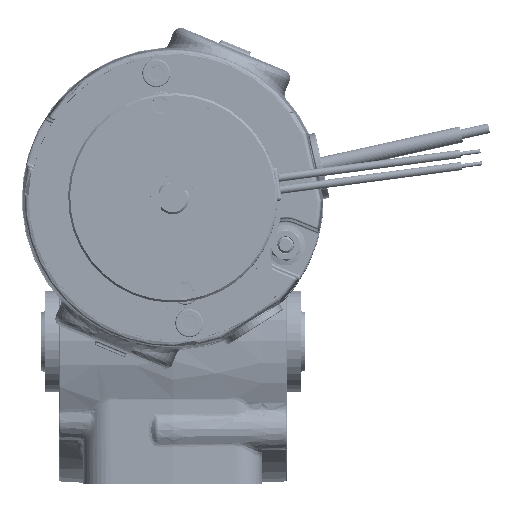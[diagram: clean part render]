
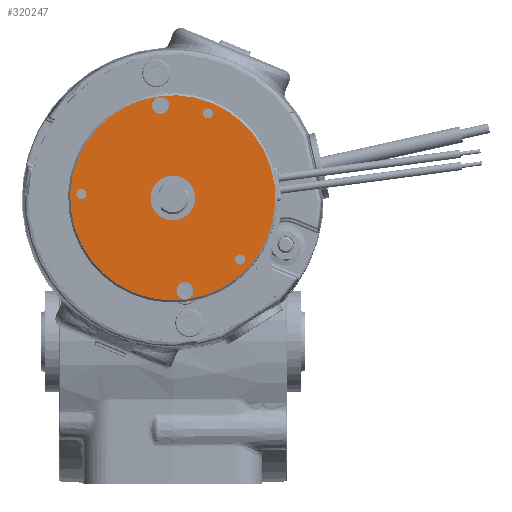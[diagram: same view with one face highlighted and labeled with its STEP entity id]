
A CAD part, top view. The second image highlights one B-rep face of the part: STEP entity #320247.
In plain terms, the highlighted planar face has unit normal (0, 0, 1).
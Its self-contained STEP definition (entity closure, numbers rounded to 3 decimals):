
#3334 = CARTESIAN_POINT ( 'NONE',  ( 5.264, 14.716, 231.098 ) ) ;
#10581 = CARTESIAN_POINT ( 'NONE',  ( 13.404, 34.367, 231.098 ) ) ;
#14494 = ORIENTED_EDGE ( 'NONE', *, *, #96636, .T. ) ;
#14710 = DIRECTION ( 'NONE',  ( -0.383, -0.924, 0. ) ) ;
#18365 = VERTEX_POINT ( 'NONE', #400394 ) ;
#24268 = CIRCLE ( 'NONE', #418028, 1.23 ) ;
#27853 = ORIENTED_EDGE ( 'NONE', *, *, #574388, .T. ) ;
#37135 = VERTEX_POINT ( 'NONE', #475585 ) ;
#40386 = AXIS2_PLACEMENT_3D ( 'NONE', #507499, #459671, #14710 ) ;
#40445 = CARTESIAN_POINT ( 'NONE',  ( -17.214, 15.697, 231.098 ) ) ;
#41576 = CARTESIAN_POINT ( 'NONE',  ( 13.875, 35.503, 231.098 ) ) ;
#41715 = DIRECTION ( 'NONE',  ( -0.383, -0.924, 0. ) ) ;
#50773 = CARTESIAN_POINT ( 'NONE',  ( 13.875, 35.503, 231.098 ) ) ;
#54366 = VERTEX_POINT ( 'NONE', #264829 ) ;
#55282 = DIRECTION ( 'NONE',  ( -0.383, -0.924, 0. ) ) ;
#56962 = EDGE_LOOP ( 'NONE', ( #27853, #65519 ) ) ;
#58887 = ORIENTED_EDGE ( 'NONE', *, *, #296121, .T. ) ;
#62951 = CIRCLE ( 'NONE', #494750, 5.5 ) ;
#65143 = DIRECTION ( 'NONE',  ( 0., 0., -1. ) ) ;
#65519 = ORIENTED_EDGE ( 'NONE', *, *, #582731, .T. ) ;
#67219 = CIRCLE ( 'NONE', #412633, 1.23 ) ;
#70260 = EDGE_CURVE ( 'NONE', #565875, #197919, #306592, .T. ) ;
#72282 = FACE_BOUND ( 'NONE', #140644, .T. ) ;
#77723 = ORIENTED_EDGE ( 'NONE', *, *, #152362, .T. ) ;
#78218 = CIRCLE ( 'NONE', #490860, 2.1 ) ;
#87529 = CARTESIAN_POINT ( 'NONE',  ( 3.066, 39.459, 231.098 ) ) ;
#89603 = DIRECTION ( 'NONE',  ( -0.383, -0.924, 0. ) ) ;
#90033 = CARTESIAN_POINT ( 'NONE',  ( 7.463, -10.028, 231.098 ) ) ;
#96636 = EDGE_CURVE ( 'NONE', #18365, #105431, #422333, .T. ) ;
#98732 = DIRECTION ( 'NONE',  ( -0.383, -0.924, 0. ) ) ;
#105225 = CIRCLE ( 'NONE', #326426, 2.1 ) ;
#105431 = VERTEX_POINT ( 'NONE', #170308 ) ;
#107427 = DIRECTION ( 'NONE',  ( -0.383, -0.924, 0. ) ) ;
#108125 = EDGE_CURVE ( 'NONE', #197919, #565875, #105225, .T. ) ;
#110119 = CARTESIAN_POINT ( 'NONE',  ( 2.262, 37.519, 231.098 ) ) ;
#126683 = DIRECTION ( 'NONE',  ( 0., 0., 1. ) ) ;
#131329 = AXIS2_PLACEMENT_3D ( 'NONE', #40445, #311000, #590240 ) ;
#131626 = AXIS2_PLACEMENT_3D ( 'NONE', #554038, #238514, #55282 ) ;
#139113 = AXIS2_PLACEMENT_3D ( 'NONE', #306387, #216102, #89603 ) ;
#140291 = ORIENTED_EDGE ( 'NONE', *, *, #142812, .T. ) ;
#140644 = EDGE_LOOP ( 'NONE', ( #563806, #162507 ) ) ;
#142812 = EDGE_CURVE ( 'NONE', #429199, #54366, #366951, .T. ) ;
#148539 = CIRCLE ( 'NONE', #139113, 1.229 ) ;
#152362 = EDGE_CURVE ( 'NONE', #105431, #18365, #510817, .T. ) ;
#162507 = ORIENTED_EDGE ( 'NONE', *, *, #243177, .T. ) ;
#168334 = EDGE_LOOP ( 'NONE', ( #233270, #58887 ) ) ;
#170308 = CARTESIAN_POINT ( 'NONE',  ( 14.927, 38.044, 231.098 ) ) ;
#179817 = CARTESIAN_POINT ( 'NONE',  ( 21.853, -0.485, 231.098 ) ) ;
#180270 = CARTESIAN_POINT ( 'NONE',  ( -16.744, 16.833, 231.098 ) ) ;
#183179 = EDGE_CURVE ( 'NONE', #317907, #499739, #294705, .T. ) ;
#184016 = AXIS2_PLACEMENT_3D ( 'NONE', #483935, #574038, #525948 ) ;
#191765 = DIRECTION ( 'NONE',  ( 0., 0., -1. ) ) ;
#197919 = VERTEX_POINT ( 'NONE', #541333 ) ;
#201396 = ORIENTED_EDGE ( 'NONE', *, *, #108125, .T. ) ;
#201747 = AXIS2_PLACEMENT_3D ( 'NONE', #3334, #126683, #358228 ) ;
#202557 = CARTESIAN_POINT ( 'NONE',  ( 9.07, -6.148, 231.098 ) ) ;
#207486 = FACE_BOUND ( 'NONE', #168334, .T. ) ;
#216102 = DIRECTION ( 'NONE',  ( 0., 0., -1. ) ) ;
#218889 = DIRECTION ( 'NONE',  ( 0., 0., -1. ) ) ;
#222480 = VERTEX_POINT ( 'NONE', #298981 ) ;
#233270 = ORIENTED_EDGE ( 'NONE', *, *, #526670, .T. ) ;
#234007 = DIRECTION ( 'NONE',  ( -0.383, -0.924, 0. ) ) ;
#238514 = DIRECTION ( 'NONE',  ( 0., 0., -1. ) ) ;
#243177 = EDGE_CURVE ( 'NONE', #266021, #298226, #572690, .T. ) ;
#248400 = CARTESIAN_POINT ( 'NONE',  ( 21.853, -0.485, 231.098 ) ) ;
#261305 = AXIS2_PLACEMENT_3D ( 'NONE', #50773, #555469, #234007 ) ;
#264829 = CARTESIAN_POINT ( 'NONE',  ( 14.345, 36.639, 231.098 ) ) ;
#266021 = VERTEX_POINT ( 'NONE', #180270 ) ;
#269819 = CARTESIAN_POINT ( 'NONE',  ( -17.685, 14.561, 231.098 ) ) ;
#275399 = CIRCLE ( 'NONE', #400417, 5.5 ) ;
#279939 = ORIENTED_EDGE ( 'NONE', *, *, #183179, .T. ) ;
#283028 = EDGE_LOOP ( 'NONE', ( #14494, #77723 ) ) ;
#294705 = CIRCLE ( 'NONE', #131626, 2.1 ) ;
#296121 = EDGE_CURVE ( 'NONE', #578365, #222480, #62951, .T. ) ;
#296503 = DIRECTION ( 'NONE',  ( 0., 0., -1. ) ) ;
#297699 = FACE_BOUND ( 'NONE', #56962, .T. ) ;
#298226 = VERTEX_POINT ( 'NONE', #269819 ) ;
#298981 = CARTESIAN_POINT ( 'NONE',  ( 3.16, 9.634, 231.098 ) ) ;
#306387 = CARTESIAN_POINT ( 'NONE',  ( -17.214, 15.697, 231.098 ) ) ;
#306592 = CIRCLE ( 'NONE', #460113, 2.1 ) ;
#306684 = PLANE ( 'NONE',  #184016 ) ;
#306984 = EDGE_CURVE ( 'NONE', #499739, #317907, #78218, .T. ) ;
#311000 = DIRECTION ( 'NONE',  ( 0., 0., -1. ) ) ;
#317907 = VERTEX_POINT ( 'NONE', #202557 ) ;
#320247 = ADVANCED_FACE ( 'NONE', ( #339981, #522959, #297699, #72282, #579999, #207486, #438953 ), #306684, .F. ) ;
#323888 = CIRCLE ( 'NONE', #390785, 1.23 ) ;
#326426 = AXIS2_PLACEMENT_3D ( 'NONE', #110119, #296503, #386750 ) ;
#339981 = FACE_BOUND ( 'NONE', #454456, .T. ) ;
#342149 = DIRECTION ( 'NONE',  ( -0.383, -0.924, 0. ) ) ;
#358228 = DIRECTION ( 'NONE',  ( -0.383, -0.924, 0. ) ) ;
#366169 = DIRECTION ( 'NONE',  ( -0.383, -0.924, 0. ) ) ;
#366951 = CIRCLE ( 'NONE', #261305, 1.23 ) ;
#373527 = EDGE_CURVE ( 'NONE', #298226, #266021, #148539, .T. ) ;
#378239 = CARTESIAN_POINT ( 'NONE',  ( 5.264, 14.716, 231.098 ) ) ;
#386750 = DIRECTION ( 'NONE',  ( -0.383, -0.924, 0. ) ) ;
#390785 = AXIS2_PLACEMENT_3D ( 'NONE', #248400, #65143, #575733 ) ;
#399515 = DIRECTION ( 'NONE',  ( 0., 0., -1. ) ) ;
#400394 = CARTESIAN_POINT ( 'NONE',  ( -4.398, -8.612, 231.098 ) ) ;
#400417 = AXIS2_PLACEMENT_3D ( 'NONE', #378239, #191765, #107427 ) ;
#412633 = AXIS2_PLACEMENT_3D ( 'NONE', #179817, #399515, #41715 ) ;
#418028 = AXIS2_PLACEMENT_3D ( 'NONE', #41576, #218889, #366169 ) ;
#422333 = CIRCLE ( 'NONE', #201747, 25.25 ) ;
#429199 = VERTEX_POINT ( 'NONE', #10581 ) ;
#438115 = DIRECTION ( 'NONE',  ( 0., 0., -1. ) ) ;
#438953 = FACE_OUTER_BOUND ( 'NONE', #283028, .T. ) ;
#440324 = EDGE_LOOP ( 'NONE', ( #140291, #499754 ) ) ;
#454441 = DIRECTION ( 'NONE',  ( -0.383, -0.924, 0. ) ) ;
#454456 = EDGE_LOOP ( 'NONE', ( #201396, #579309 ) ) ;
#459671 = DIRECTION ( 'NONE',  ( 0., 0., 1. ) ) ;
#459908 = CARTESIAN_POINT ( 'NONE',  ( 7.369, 19.797, 231.098 ) ) ;
#460113 = AXIS2_PLACEMENT_3D ( 'NONE', #468416, #552521, #98732 ) ;
#468416 = CARTESIAN_POINT ( 'NONE',  ( 2.262, 37.519, 231.098 ) ) ;
#475585 = CARTESIAN_POINT ( 'NONE',  ( 21.383, -1.621, 231.098 ) ) ;
#483935 = CARTESIAN_POINT ( 'NONE',  ( 3.16, 9.634, 231.098 ) ) ;
#490860 = AXIS2_PLACEMENT_3D ( 'NONE', #519198, #438115, #342149 ) ;
#494750 = AXIS2_PLACEMENT_3D ( 'NONE', #502338, #544526, #454441 ) ;
#499739 = VERTEX_POINT ( 'NONE', #90033 ) ;
#499754 = ORIENTED_EDGE ( 'NONE', *, *, #578524, .T. ) ;
#502338 = CARTESIAN_POINT ( 'NONE',  ( 5.264, 14.716, 231.098 ) ) ;
#507499 = CARTESIAN_POINT ( 'NONE',  ( 5.264, 14.716, 231.098 ) ) ;
#510817 = CIRCLE ( 'NONE', #40386, 25.25 ) ;
#519198 = CARTESIAN_POINT ( 'NONE',  ( 8.266, -8.088, 231.098 ) ) ;
#522959 = FACE_BOUND ( 'NONE', #544369, .T. ) ;
#525948 = DIRECTION ( 'NONE',  ( -0.383, -0.924, 0. ) ) ;
#526670 = EDGE_CURVE ( 'NONE', #222480, #578365, #275399, .T. ) ;
#541333 = CARTESIAN_POINT ( 'NONE',  ( 1.459, 35.579, 231.098 ) ) ;
#544369 = EDGE_LOOP ( 'NONE', ( #590914, #279939 ) ) ;
#544526 = DIRECTION ( 'NONE',  ( 0., 0., -1. ) ) ;
#552521 = DIRECTION ( 'NONE',  ( 0., 0., -1. ) ) ;
#554038 = CARTESIAN_POINT ( 'NONE',  ( 8.266, -8.088, 231.098 ) ) ;
#555469 = DIRECTION ( 'NONE',  ( 0., 0., -1. ) ) ;
#561155 = VERTEX_POINT ( 'NONE', #580609 ) ;
#563806 = ORIENTED_EDGE ( 'NONE', *, *, #373527, .T. ) ;
#565875 = VERTEX_POINT ( 'NONE', #87529 ) ;
#572690 = CIRCLE ( 'NONE', #131329, 1.229 ) ;
#574038 = DIRECTION ( 'NONE',  ( 0., 0., -1. ) ) ;
#574388 = EDGE_CURVE ( 'NONE', #37135, #561155, #67219, .T. ) ;
#575733 = DIRECTION ( 'NONE',  ( -0.383, -0.924, 0. ) ) ;
#578365 = VERTEX_POINT ( 'NONE', #459908 ) ;
#578524 = EDGE_CURVE ( 'NONE', #54366, #429199, #24268, .T. ) ;
#579309 = ORIENTED_EDGE ( 'NONE', *, *, #70260, .T. ) ;
#579999 = FACE_BOUND ( 'NONE', #440324, .T. ) ;
#580609 = CARTESIAN_POINT ( 'NONE',  ( 22.324, 0.651, 231.098 ) ) ;
#582731 = EDGE_CURVE ( 'NONE', #561155, #37135, #323888, .T. ) ;
#590240 = DIRECTION ( 'NONE',  ( -0.383, -0.924, 0. ) ) ;
#590914 = ORIENTED_EDGE ( 'NONE', *, *, #306984, .T. ) ;
